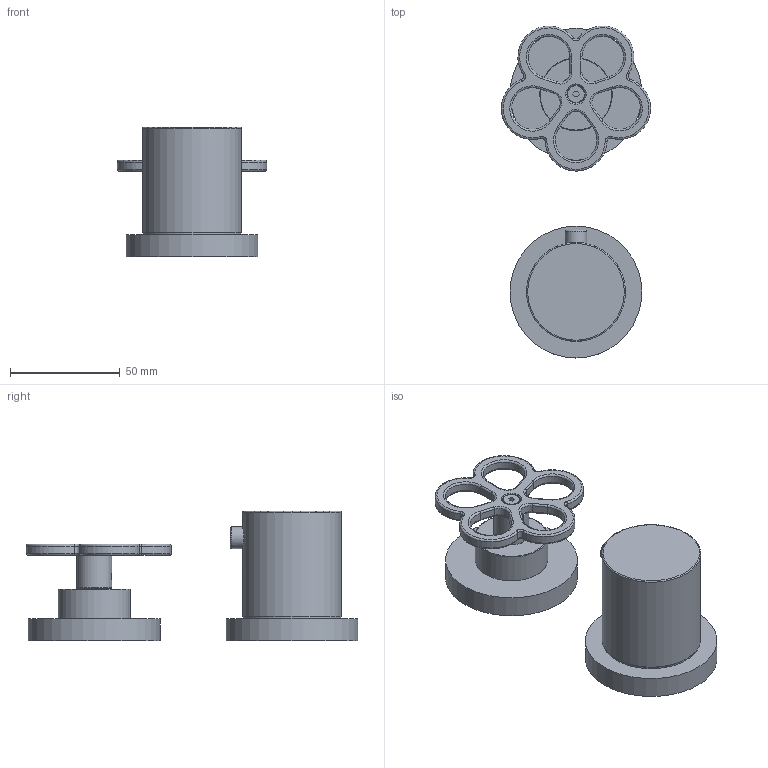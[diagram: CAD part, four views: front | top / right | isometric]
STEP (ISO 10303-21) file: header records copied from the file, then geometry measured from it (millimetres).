
FILE_DESCRIPTION(('STEP AP214'),'2;1');
FILE_NAME('DIS_3D_T523B+M523A.stp','2024-04-30T14:14:22',(''),(''),'2015.2.119','THINKDESIGN','');
FILE_SCHEMA(('AUTOMOTIVE_DESIGN'));
Length unit declared in the file: millimetre
Products named in the file (1): top
Bounding box: 67.92 x 151.03 x 58.9 mm (x, y, z)
Volume: 156677.1 mm3; surface area: 38841.1 mm2
Topology: 12 solids, 12 shells, 245 faces, 549 edges, 320 vertices
Faces by surface type: bspline 104, cylinder 83, plane 58
Full cylindrical faces by diameter (mm): 9.957 x1, 33 x1, 45 x1, 60 x2
Entity records: 16120 total; most frequent: CARTESIAN_POINT 6468, DIRECTION 1114, ORIENTED_EDGE 1070, EDGE_CURVE 535, STYLED_ITEM 502, PRESENTATION_STYLE_ASSIGNMENT 494, SURFACE_STYLE_USAGE 494, SURFACE_SIDE_STYLE 494
